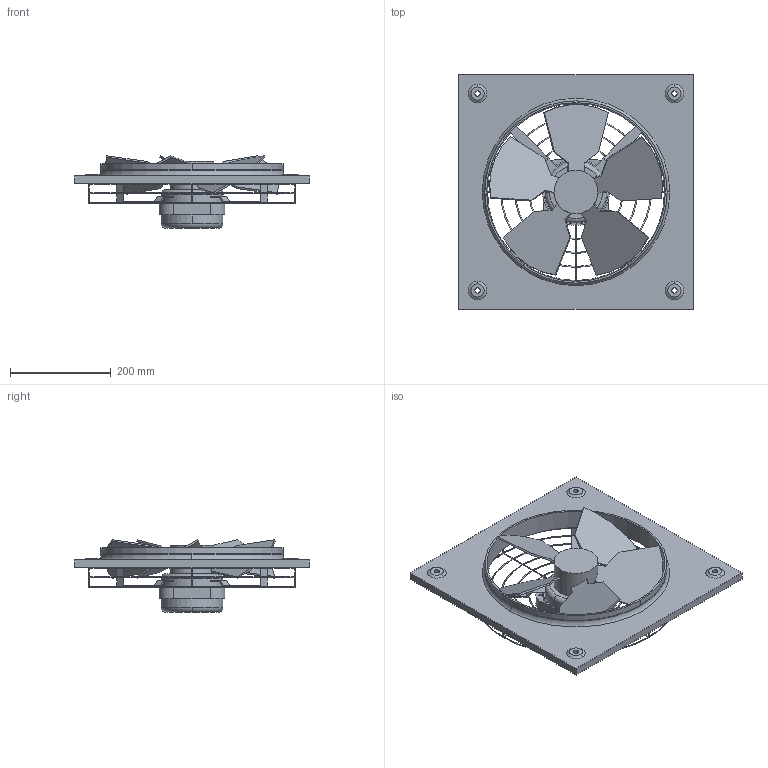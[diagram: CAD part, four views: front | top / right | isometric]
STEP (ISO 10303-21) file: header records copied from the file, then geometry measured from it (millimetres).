
FILE_DESCRIPTION(('STEP AP214'),'1');
FILE_NAME('fan_5110005500.stp','2017-06-30T15:25:23',('TraceParts'),('TraceParts S.A.'),'Spatial InterOp 3D',' ',' ');
FILE_SCHEMA(('automotive_design'));
Length unit declared in the file: millimetre
Products named in the file (1): fan_5110005500
Bounding box: 465 x 465 x 143.61 mm (x, y, z)
Volume: 3540946.8 mm3; surface area: 623248.1 mm2
Topology: 1 solids, 1 shells, 296 faces, 839 edges, 507 vertices
Faces by surface type: plane 109, cylinder 103, torus 68, cone 16
Entity records: 17408 total; most frequent: CARTESIAN_POINT 7523, ORIENTED_EDGE 1678, DIRECTION 1462, EDGE_CURVE 839, AXIS2_PLACEMENT_3D 558, VERTEX_POINT 507, LINE 346, VECTOR 346
